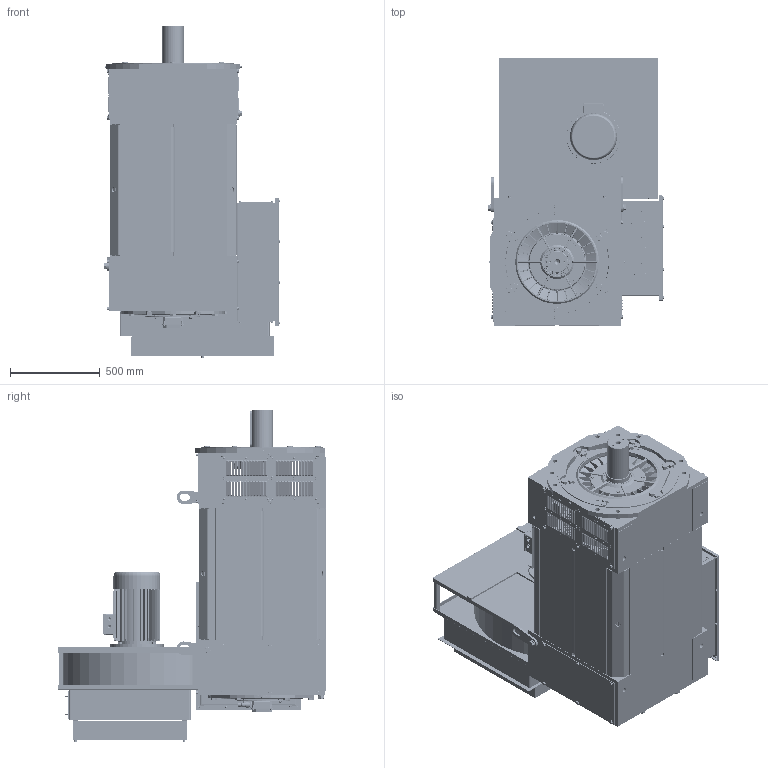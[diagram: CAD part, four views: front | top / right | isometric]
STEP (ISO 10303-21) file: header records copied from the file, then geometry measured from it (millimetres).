
FILE_DESCRIPTION (( 'STEP AP214' ), '1' );
FILE_NAME ('355_M_HQLa.STEP', '2023-01-21T09:43:42', ( '' ), ( '' ), 'SwSTEP 2.0', 'SolidWorks 2022', '' );
FILE_SCHEMA (( 'AUTOMOTIVE_DESIGN' ));
Length unit declared in the file: millimetre
Products named in the file (52): hex screw gradeab fine_iso_ISO 8676 - M8x1.0 x 16-N; socket head cap screw_iso_ISO 4762 M3 x 6 - 6N; 3CONN10PIN; 3YU355PHA; 3YU335PMA_M; plain washer chamfered grade a_iso_Washer ISO 7090 - 8; CASTELLO_FILTRO_885x720x283; plain washer normal grade c_iso_Washer ISO 7091 - 20; 355_M_HQLa; 3YU355PCA; 3CU355PEA; hex bolt gradeb_iso_ISO 4015 - M20 x 65 x 46-N; 3PZ014PAA; 3WU355PAA_M; slotted set screw flat point_iso_ISO 4766 - M10 x 50-N; TAPPO_66; hex nut style 2 gradeab_iso_ISO - 4033 - M10 - W - N; circlip for shafts normal_din_Circlip DIN 471 - 130 x 4; curved spring lock washer_din_Spring washer DIN 128 - A20; 3DU355PCA; 3PU355PAA; 3ZJ280PAA; plain washer normal grade c_iso_Washer ISO 7091 - 5; 6226_SKF; hex screw gradec_din_DIN EN 24018 - M10 x 100-WN; hex screw gradec_iso_ISO 4018 - M10 x 20-NN; 3ANELLO_TENUTA_130_160_12; hex screw gradec_iso_ISO 4018 - M8 x 20-WN; hex nut style 1 gradeab_din_Hexagon Nut ISO 4032 - M20 - W - N; plain washer normal grade c_iso_Washer ISO 7091 - 10; 3YU355PAA; curved spring lock washer_din_Spring washer DIN 128 - A22; INGRASSATORE_M8; 3WU355PHA_M; MOTORE_3F_7.5Kw_400v_50Hz; 3MU355PPA; pan head cross recess screw_iso_ISO 7045 - M5 x 10 - Z - 10N; NU_226EC_SKF; hex screw gradeab_din_DIN EN 24017 - M20 x 40-N; curved spring lock washer_din_Spring washer DIN 128 - A10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
Assembly tree (211 placements, depth 2):
  355_M_HQLa
    3WU355PHA_M
    3YU355PAA  x2
    3CU355PEA
    3WU355PAA_M  x4
    3AU355CAA_M
    3DU355PCA
    3DU355PGA_ANT
    NU_226EC_SKF  x2
    6226_SKF
    parallel_din_Parallel key A32 x 18 x 200 DIN 6885
    3ZJ280PAA  x2
    circlip for shafts normal_din_Circlip DIN 471 - 130 x 4  x2
    3CU355PFA
    3DU355PGA_POST
    3PZ014PAA
    3YU335PMA_M
    3connettore10pin
    3CONN10PIN
    slotted set screw flat point_iso_ISO 4766 - M10 x 50-N  x4
    hex nut style 2 gradeab_iso_ISO - 4033 - M10 - W - N  x12
    pan head cross recess screw_iso_ISO 7045 - M5 x 10 - Z - 10N  x4
    socket head cap screw_iso_ISO 4762 M3 x 6 - 6N  x3
    3MU355PPA
    FILTRO_700x630x100
    CASTELLO_FILTRO_885x720x283
    MOTORE_3F_7.5Kw_400v_50Hz
    3PU355PAA
    3PU355PBA
    plain washer normal grade c_iso_Washer ISO 7091 - 5  x2
    hex nut style 2 gradeab_iso_ISO - 4033 - M5 - W - N  x2
    3YU355PCA  x2
    3YU355PHA  x2
    3YU355PLA
    3ANELLO_TENUTA_130_160_12
    TAPPO_66  x6
    plain washer normal grade c_iso_Washer ISO 7091 - 8  x24
    hex screw gradec_iso_ISO 4018 - M8 x 20-WN  x24
    plain washer normal grade c_iso_Washer ISO 7091 - 20  x21
    curved spring lock washer_din_Spring washer DIN 128 - A22  x3
    hex screw gradeab_din_DIN EN 24017 - M20 x 40-N  x3
    plain washer normal grade c_iso_Washer ISO 7091 - 10  x14
    hex screw gradec_iso_ISO 4018 - M10 x 20-NN  x14
    hex bolt gradeb_iso_ISO 4015 - M20 x 65 x 46-N  x18
    TIRANTE_M20_L1015  x2
    curved spring lock washer_din_Spring washer DIN 128 - A20  x2
    hex nut style 1 gradeab_din_Hexagon Nut ISO 4032 - M20 - W - N  x2
    curved spring lock washer_din_Spring washer DIN 128 - A10  x4
    hex screw gradec_din_DIN EN 24018 - M10 x 100-WN  x4
    INGRASSATORE_M8  x2
    plain washer chamfered grade a_iso_Washer ISO 7090 - 8  x2
    hex screw gradeab fine_iso_ISO 8676 - M8x1.0 x 16-N  x2
Bounding box: 981.98 x 1495 x 1853 mm (x, y, z)
Volume: 257782694.7 mm3; surface area: 40486036.4 mm2
Topology: 311 solids, 362 shells, 10918 faces, 26979 edges, 17125 vertices
Faces by surface type: plane 5583, cylinder 3423, cone 1033, bspline 499, torus 285, sphere 95
Full cylindrical faces by diameter (mm): 1.5 x10, 3 x3, 3.2 x4, 3.3 x1, 4 x4, 4.2 x2, 5 x13, 5.5 x11, 6 x1, 6.5 x12, 6.8 x24, 7 x4, 8 x40, 8.4 x2, 8.5 x52, 8.8 x2, 9 x24, 9.5 x4, 10 x120, 10.5 x2, 11 x57, 12 x50, 12.5 x16, 13 x26, 14 x9, 16 x45, 16.3 x8, 17 x6, 17.5 x38, 18.313 x4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
Entity records: 230678 total; most frequent: CARTESIAN_POINT 63431, ORIENTED_EDGE 32620, DIRECTION 32353, EDGE_CURVE 16332, AXIS2_PLACEMENT_3D 11620, VERTEX_POINT 10997, VECTOR 9113, LINE 9113
